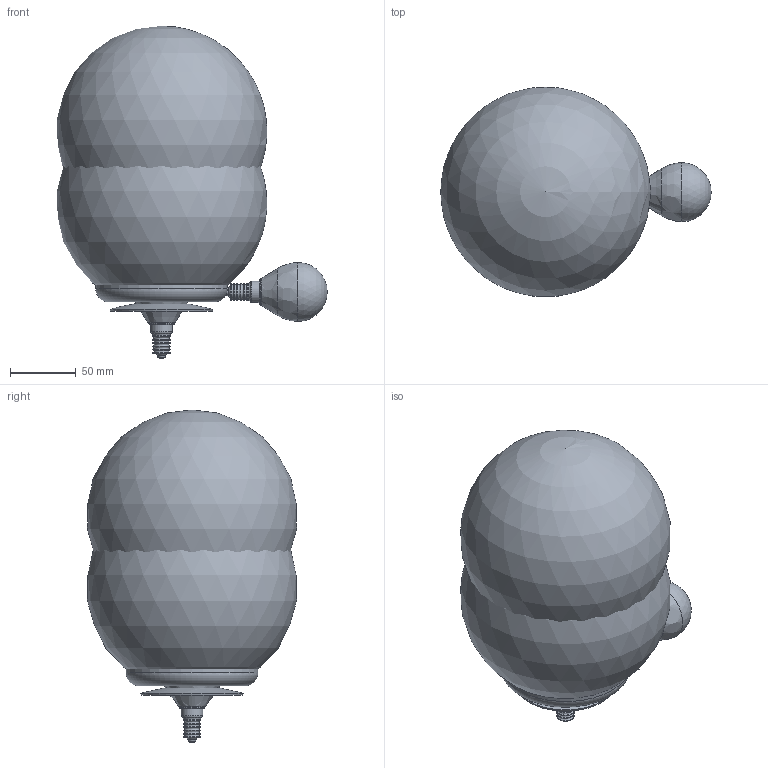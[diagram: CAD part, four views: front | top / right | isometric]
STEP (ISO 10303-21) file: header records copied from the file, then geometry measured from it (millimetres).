
FILE_DESCRIPTION( ( 'Unknown' ), '1' );
FILE_NAME( '//MMS001/Pubblica/PROGETTI MM LAMPADARI/7434 SERIE TUMBLER/ELECTA - LO SCALZO/OLD/PRJ 192_2019 lo scalzo/Tavolo Piccola/Base assemblata.stp', 'Unknown', ( 'Unknown' ), ( 'Unknown' ), 'XStep 1.0', 'Unknown', ' ' );
FILE_SCHEMA( ( 'automotive_design' ) );
Length unit declared in the file: millimetre
Products named in the file (11): Assem1; Assem2; Lampadina E14 Vtac; Marmo; Piatino_E14; Tige; Molla; Sfera ﾘ160; Bloccacavo 400240401; RONDELLA dentata; Dado 13 M10x1_2
Bounding box: 205.24 x 158.64 x 251.92 mm (x, y, z)
Volume: 1152492.2 mm3; surface area: 445426.2 mm2
Topology: 19 solids, 19 shells, 404 faces, 1026 edges, 655 vertices
Faces by surface type: plane 197, cylinder 96, torus 89, sphere 11, bspline 6, cone 5
Full cylindrical faces by diameter (mm): 1 x20, 7 x2, 8.917 x2, 10 x2, 10.25 x6, 10.5 x4, 13.044 x18, 14 x2, 16.211 x3, 18.985 x3, 60 x2, 80 x2, 100 x2
Entity records: 5964 total; most frequent: CARTESIAN_POINT 1191, DIRECTION 922, ORIENTED_EDGE 734, AXIS2_PLACEMENT_3D 381, EDGE_CURVE 367, VERTEX_POINT 274, EDGE_LOOP 265, FACE_OUTER_BOUND 237
